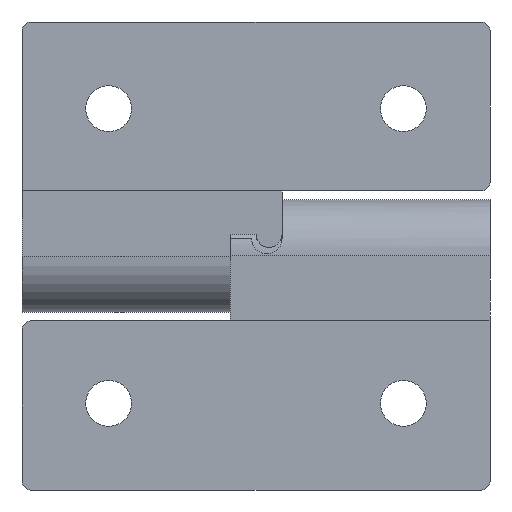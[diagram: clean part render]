
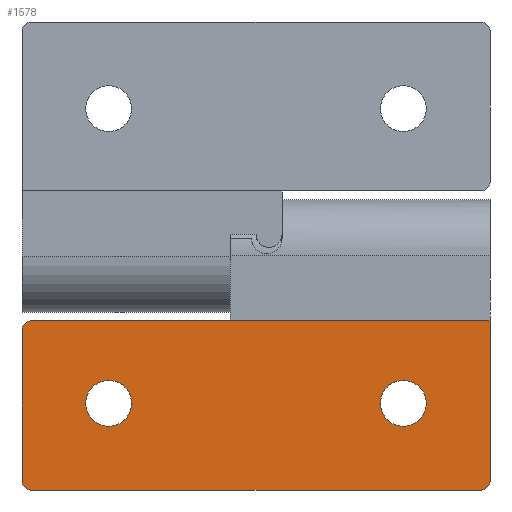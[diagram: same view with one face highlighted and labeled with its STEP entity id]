
A CAD part, front view. The second image highlights one B-rep face of the part: STEP entity #1578.
In plain terms, the highlighted planar face has unit normal (0, -1, 0).
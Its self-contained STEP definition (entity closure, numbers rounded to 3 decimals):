
#5 = CIRCLE ( 'NONE', #1277, 2.65 ) ;
#46 = CARTESIAN_POINT ( 'NONE',  ( 17., -0.5, -17. ) ) ;
#67 = DIRECTION ( 'NONE',  ( -1., 0., 0. ) ) ;
#109 = CIRCLE ( 'NONE', #507, 2.65 ) ;
#138 = LINE ( 'NONE', #383, #2431 ) ;
#142 = FACE_OUTER_BOUND ( 'NONE', #718, .T. ) ;
#158 = AXIS2_PLACEMENT_3D ( 'NONE', #1259, #1996, #2499 ) ;
#186 = FACE_BOUND ( 'NONE', #374, .T. ) ;
#199 = ORIENTED_EDGE ( 'NONE', *, *, #1092, .T. ) ;
#208 = CARTESIAN_POINT ( 'NONE',  ( 27., -0.5, -7.5 ) ) ;
#250 = CARTESIAN_POINT ( 'NONE',  ( 27., -0.5, -26. ) ) ;
#258 = EDGE_CURVE ( 'NONE', #1784, #1031, #2312, .T. ) ;
#264 = EDGE_CURVE ( 'NONE', #1769, #1784, #2922, .T. ) ;
#359 = VERTEX_POINT ( 'NONE', #2183 ) ;
#374 = EDGE_LOOP ( 'NONE', ( #826, #199 ) ) ;
#375 = DIRECTION ( 'NONE',  ( 0., 1., 0. ) ) ;
#383 = CARTESIAN_POINT ( 'NONE',  ( -27., -0.5, -7.5 ) ) ;
#402 = CIRCLE ( 'NONE', #2287, 1. ) ;
#413 = EDGE_LOOP ( 'NONE', ( #441, #937 ) ) ;
#432 = EDGE_CURVE ( 'NONE', #1513, #2539, #109, .T. ) ;
#441 = ORIENTED_EDGE ( 'NONE', *, *, #432, .T. ) ;
#448 = CARTESIAN_POINT ( 'NONE',  ( 17., -0.5, -14.35 ) ) ;
#464 = CARTESIAN_POINT ( 'NONE',  ( -27., -0.5, -8.5 ) ) ;
#480 = DIRECTION ( 'NONE',  ( 0., 0., 1. ) ) ;
#507 = AXIS2_PLACEMENT_3D ( 'NONE', #2424, #2658, #1976 ) ;
#523 = CARTESIAN_POINT ( 'NONE',  ( 27., -0.5, -7.5 ) ) ;
#558 = ORIENTED_EDGE ( 'NONE', *, *, #264, .T. ) ;
#566 = ORIENTED_EDGE ( 'NONE', *, *, #2701, .F. ) ;
#614 = ORIENTED_EDGE ( 'NONE', *, *, #2621, .T. ) ;
#623 = DIRECTION ( 'NONE',  ( 0., -1., 0. ) ) ;
#652 = CARTESIAN_POINT ( 'NONE',  ( 27., -0.5, -27. ) ) ;
#683 = DIRECTION ( 'NONE',  ( -1., 0., 0. ) ) ;
#684 = VECTOR ( 'NONE', #683, 1000. ) ;
#708 = DIRECTION ( 'NONE',  ( 0., 0., 1. ) ) ;
#718 = EDGE_LOOP ( 'NONE', ( #558, #2956, #2303, #614, #566, #1318, #2226 ) ) ;
#826 = ORIENTED_EDGE ( 'NONE', *, *, #1145, .T. ) ;
#936 = EDGE_CURVE ( 'NONE', #1031, #359, #138, .T. ) ;
#937 = ORIENTED_EDGE ( 'NONE', *, *, #2355, .T. ) ;
#1031 = VERTEX_POINT ( 'NONE', #464 ) ;
#1058 = VERTEX_POINT ( 'NONE', #448 ) ;
#1063 = EDGE_CURVE ( 'NONE', #1067, #1662, #402, .T. ) ;
#1067 = VERTEX_POINT ( 'NONE', #1242 ) ;
#1092 = EDGE_CURVE ( 'NONE', #2770, #1058, #5, .T. ) ;
#1107 = CARTESIAN_POINT ( 'NONE',  ( -17., -0.5, -14.35 ) ) ;
#1145 = EDGE_CURVE ( 'NONE', #1058, #2770, #1681, .T. ) ;
#1242 = CARTESIAN_POINT ( 'NONE',  ( 26., -0.5, -27. ) ) ;
#1259 = CARTESIAN_POINT ( 'NONE',  ( 17., -0.5, -17. ) ) ;
#1277 = AXIS2_PLACEMENT_3D ( 'NONE', #46, #2381, #708 ) ;
#1295 = AXIS2_PLACEMENT_3D ( 'NONE', #2787, #623, #2023 ) ;
#1318 = ORIENTED_EDGE ( 'NONE', *, *, #1063, .T. ) ;
#1354 = DIRECTION ( 'NONE',  ( 0., 0., 1. ) ) ;
#1369 = CARTESIAN_POINT ( 'NONE',  ( 27., -0.5, -7.5 ) ) ;
#1388 = LINE ( 'NONE', #652, #684 ) ;
#1484 = DIRECTION ( 'NONE',  ( 0., -1., 0. ) ) ;
#1513 = VERTEX_POINT ( 'NONE', #1107 ) ;
#1578 = ADVANCED_FACE ( 'NONE', ( #186, #1834, #142 ), #3066, .F. ) ;
#1626 = DIRECTION ( 'NONE',  ( 0., 0., -1. ) ) ;
#1662 = VERTEX_POINT ( 'NONE', #250 ) ;
#1681 = CIRCLE ( 'NONE', #158, 2.65 ) ;
#1684 = VERTEX_POINT ( 'NONE', #2604 ) ;
#1769 = VERTEX_POINT ( 'NONE', #2986 ) ;
#1784 = VERTEX_POINT ( 'NONE', #1828 ) ;
#1828 = CARTESIAN_POINT ( 'NONE',  ( -26., -0.5, -7.5 ) ) ;
#1834 = FACE_BOUND ( 'NONE', #413, .T. ) ;
#1926 = CARTESIAN_POINT ( 'NONE',  ( 26., -0.5, -26. ) ) ;
#1932 = CARTESIAN_POINT ( 'NONE',  ( -26., -0.5, -8.5 ) ) ;
#1976 = DIRECTION ( 'NONE',  ( 0., 0., 1. ) ) ;
#1996 = DIRECTION ( 'NONE',  ( 0., 1., 0. ) ) ;
#2023 = DIRECTION ( 'NONE',  ( 0., 0., 1. ) ) ;
#2151 = VECTOR ( 'NONE', #2362, 1000. ) ;
#2183 = CARTESIAN_POINT ( 'NONE',  ( -27., -0.5, -26. ) ) ;
#2226 = ORIENTED_EDGE ( 'NONE', *, *, #2271, .F. ) ;
#2271 = EDGE_CURVE ( 'NONE', #1769, #1662, #2609, .T. ) ;
#2287 = AXIS2_PLACEMENT_3D ( 'NONE', #1926, #1484, #480 ) ;
#2303 = ORIENTED_EDGE ( 'NONE', *, *, #936, .T. ) ;
#2307 = AXIS2_PLACEMENT_3D ( 'NONE', #2913, #2643, #2677 ) ;
#2312 = CIRCLE ( 'NONE', #2964, 1. ) ;
#2355 = EDGE_CURVE ( 'NONE', #2539, #1513, #3047, .T. ) ;
#2362 = DIRECTION ( 'NONE',  ( 0., 0., -1. ) ) ;
#2381 = DIRECTION ( 'NONE',  ( 0., 1., 0. ) ) ;
#2402 = CARTESIAN_POINT ( 'NONE',  ( 17., -0.5, -19.65 ) ) ;
#2424 = CARTESIAN_POINT ( 'NONE',  ( -17., -0.5, -17. ) ) ;
#2431 = VECTOR ( 'NONE', #1626, 1000. ) ;
#2434 = DIRECTION ( 'NONE',  ( 0., -1., 0. ) ) ;
#2499 = DIRECTION ( 'NONE',  ( 0., 0., 1. ) ) ;
#2539 = VERTEX_POINT ( 'NONE', #2751 ) ;
#2604 = CARTESIAN_POINT ( 'NONE',  ( -26., -0.5, -27. ) ) ;
#2609 = LINE ( 'NONE', #208, #2151 ) ;
#2621 = EDGE_CURVE ( 'NONE', #359, #1684, #2901, .T. ) ;
#2643 = DIRECTION ( 'NONE',  ( 0., 1., 0. ) ) ;
#2658 = DIRECTION ( 'NONE',  ( 0., 1., 0. ) ) ;
#2669 = DIRECTION ( 'NONE',  ( 0., 0., 1. ) ) ;
#2677 = DIRECTION ( 'NONE',  ( 0., 0., 1. ) ) ;
#2701 = EDGE_CURVE ( 'NONE', #1067, #1684, #1388, .T. ) ;
#2751 = CARTESIAN_POINT ( 'NONE',  ( -17., -0.5, -19.65 ) ) ;
#2770 = VERTEX_POINT ( 'NONE', #2402 ) ;
#2787 = CARTESIAN_POINT ( 'NONE',  ( -26., -0.5, -26. ) ) ;
#2901 = CIRCLE ( 'NONE', #1295, 1. ) ;
#2913 = CARTESIAN_POINT ( 'NONE',  ( -17., -0.5, -17. ) ) ;
#2922 = LINE ( 'NONE', #523, #3101 ) ;
#2956 = ORIENTED_EDGE ( 'NONE', *, *, #258, .T. ) ;
#2964 = AXIS2_PLACEMENT_3D ( 'NONE', #1932, #2434, #2669 ) ;
#2986 = CARTESIAN_POINT ( 'NONE',  ( 27., -0.5, -7.5 ) ) ;
#3026 = AXIS2_PLACEMENT_3D ( 'NONE', #1369, #375, #1354 ) ;
#3047 = CIRCLE ( 'NONE', #2307, 2.65 ) ;
#3066 = PLANE ( 'NONE',  #3026 ) ;
#3101 = VECTOR ( 'NONE', #67, 1000. ) ;
